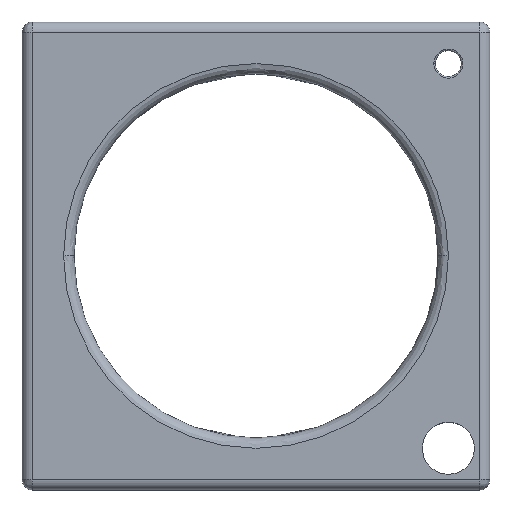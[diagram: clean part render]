
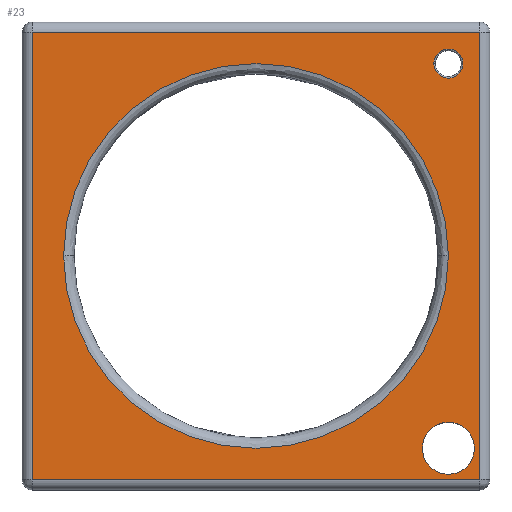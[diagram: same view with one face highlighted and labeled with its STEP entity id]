
A CAD part, top view. The second image highlights one B-rep face of the part: STEP entity #23.
In plain terms, the highlighted planar face has unit normal (0, 0, 1).
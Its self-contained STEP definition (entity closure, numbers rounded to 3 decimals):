
#23=ADVANCED_FACE('',(#80,#71,#72,#73),#745,.T.);
#71=FACE_BOUND('',#135,.T.);
#72=FACE_BOUND('',#136,.T.);
#73=FACE_BOUND('',#137,.T.);
#80=FACE_OUTER_BOUND('',#134,.T.);
#134=EDGE_LOOP('',(#218,#219,#220,#221));
#135=EDGE_LOOP('',(#222,#223));
#136=EDGE_LOOP('',(#224,#225));
#137=EDGE_LOOP('',(#226,#227));
#218=ORIENTED_EDGE('',*,*,#415,.T.);
#219=ORIENTED_EDGE('',*,*,#413,.T.);
#220=ORIENTED_EDGE('',*,*,#414,.T.);
#221=ORIENTED_EDGE('',*,*,#412,.T.);
#222=ORIENTED_EDGE('',*,*,#438,.T.);
#223=ORIENTED_EDGE('',*,*,#469,.T.);
#224=ORIENTED_EDGE('',*,*,#471,.F.);
#225=ORIENTED_EDGE('',*,*,#445,.F.);
#226=ORIENTED_EDGE('',*,*,#452,.T.);
#227=ORIENTED_EDGE('',*,*,#479,.T.);
#412=EDGE_CURVE('',#669,#670,#638,.T.);
#413=EDGE_CURVE('',#671,#672,#639,.T.);
#414=EDGE_CURVE('',#672,#669,#640,.T.);
#415=EDGE_CURVE('',#670,#671,#641,.T.);
#438=EDGE_CURVE('',#668,#692,#510,.T.);
#445=EDGE_CURVE('',#674,#693,#517,.T.);
#452=EDGE_CURVE('',#682,#697,#522,.T.);
#469=EDGE_CURVE('',#692,#668,#533,.T.);
#471=EDGE_CURVE('',#693,#674,#535,.T.);
#479=EDGE_CURVE('',#697,#682,#540,.T.);
#510=TRIMMED_CURVE($,#571,(#1662),(#1663),.T.,.CARTESIAN.);
#517=TRIMMED_CURVE($,#578,(#1683),(#1684),.T.,.CARTESIAN.);
#522=TRIMMED_CURVE($,#583,(#1751),(#1752),.T.,.CARTESIAN.);
#533=TRIMMED_CURVE($,#594,(#1836),(#1837),.T.,.CARTESIAN.);
#535=TRIMMED_CURVE($,#596,(#1842),(#1843),.T.,.CARTESIAN.);
#540=TRIMMED_CURVE($,#601,(#1887),(#1888),.T.,.CARTESIAN.);
#571=CIRCLE('',#890,37.);
#578=CIRCLE('',#897,2.8);
#583=CIRCLE('',#902,5.);
#594=CIRCLE('',#913,37.);
#596=CIRCLE('',#915,2.8);
#601=CIRCLE('',#920,5.);
#638=B_SPLINE_CURVE_WITH_KNOTS('',1,(#1587,#1588),.UNSPECIFIED.,.F.,.F.,
(2,2),(2.,88.),.UNSPECIFIED.);
#639=B_SPLINE_CURVE_WITH_KNOTS('',1,(#1589,#1590),.UNSPECIFIED.,.F.,.F.,
(2,2),(2.,88.),.UNSPECIFIED.);
#640=B_SPLINE_CURVE_WITH_KNOTS('',1,(#1591,#1592),.UNSPECIFIED.,.F.,.F.,
(2,2),(2.,88.),.UNSPECIFIED.);
#641=B_SPLINE_CURVE_WITH_KNOTS('',1,(#1593,#1594),.UNSPECIFIED.,.F.,.F.,
(2,2),(2.,88.),.UNSPECIFIED.);
#668=VERTEX_POINT('',#1468);
#669=VERTEX_POINT('',#1469);
#670=VERTEX_POINT('',#1470);
#671=VERTEX_POINT('',#1471);
#672=VERTEX_POINT('',#1472);
#674=VERTEX_POINT('',#1474);
#682=VERTEX_POINT('',#1482);
#692=VERTEX_POINT('',#1492);
#693=VERTEX_POINT('',#1493);
#697=VERTEX_POINT('',#1497);
#745=PLANE('',#840);
#840=AXIS2_PLACEMENT_3D('',#1086,#932,$);
#890=AXIS2_PLACEMENT_3D($,#1661,#1011,#1012);
#897=AXIS2_PLACEMENT_3D($,#1682,#1025,#1026);
#902=AXIS2_PLACEMENT_3D($,#1750,#1035,#1036);
#913=AXIS2_PLACEMENT_3D($,#1835,#1057,#1058);
#915=AXIS2_PLACEMENT_3D($,#1841,#1061,#1062);
#920=AXIS2_PLACEMENT_3D($,#1886,#1071,#1072);
#932=DIRECTION('',(0.,0.,1.));
#1011=DIRECTION('',(0.,0.,-1.));
#1012=DIRECTION('',(1.,0.,0.));
#1025=DIRECTION('',(0.,0.,1.));
#1026=DIRECTION('',(-1.,0.,0.));
#1035=DIRECTION('',(0.,0.,-1.));
#1036=DIRECTION('',(-1.,0.,0.));
#1057=DIRECTION('',(0.,0.,-1.));
#1058=DIRECTION('',(-1.,0.,0.));
#1061=DIRECTION('',(0.,0.,1.));
#1062=DIRECTION('',(1.,0.,0.));
#1071=DIRECTION('',(0.,0.,-1.));
#1072=DIRECTION('',(1.,0.,0.));
#1086=CARTESIAN_POINT('',(255.,0.,15.));
#1468=CARTESIAN_POINT('',(337.,45.,15.));
#1469=CARTESIAN_POINT('',(343.,2.,15.));
#1470=CARTESIAN_POINT('',(343.,88.,15.));
#1471=CARTESIAN_POINT('',(257.,88.,15.));
#1472=CARTESIAN_POINT('',(257.,2.,15.));
#1474=CARTESIAN_POINT('',(334.2,82.,15.));
#1482=CARTESIAN_POINT('',(332.,8.,15.));
#1492=CARTESIAN_POINT('',(263.,45.,15.));
#1493=CARTESIAN_POINT('',(339.8,82.,15.));
#1497=CARTESIAN_POINT('',(342.,8.,15.));
#1587=CARTESIAN_POINT('',(343.,2.,15.));
#1588=CARTESIAN_POINT('',(343.,88.,15.));
#1589=CARTESIAN_POINT('',(257.,88.,15.));
#1590=CARTESIAN_POINT('',(257.,2.,15.));
#1591=CARTESIAN_POINT('',(257.,2.,15.));
#1592=CARTESIAN_POINT('',(343.,2.,15.));
#1593=CARTESIAN_POINT('',(343.,88.,15.));
#1594=CARTESIAN_POINT('',(257.,88.,15.));
#1661=CARTESIAN_POINT('',(300.,45.,15.));
#1662=CARTESIAN_POINT('',(337.,45.,15.));
#1663=CARTESIAN_POINT('',(263.,45.,15.));
#1682=CARTESIAN_POINT('',(337.,82.,15.));
#1683=CARTESIAN_POINT('',(334.2,82.,15.));
#1684=CARTESIAN_POINT('',(339.8,82.,15.));
#1750=CARTESIAN_POINT('',(337.,8.,15.));
#1751=CARTESIAN_POINT('',(332.,8.,15.));
#1752=CARTESIAN_POINT('',(342.,8.,15.));
#1835=CARTESIAN_POINT('',(300.,45.,15.));
#1836=CARTESIAN_POINT('',(263.,45.,15.));
#1837=CARTESIAN_POINT('',(337.,45.,15.));
#1841=CARTESIAN_POINT('',(337.,82.,15.));
#1842=CARTESIAN_POINT('',(339.8,82.,15.));
#1843=CARTESIAN_POINT('',(334.2,82.,15.));
#1886=CARTESIAN_POINT('',(337.,8.,15.));
#1887=CARTESIAN_POINT('',(342.,8.,15.));
#1888=CARTESIAN_POINT('',(332.,8.,15.));
